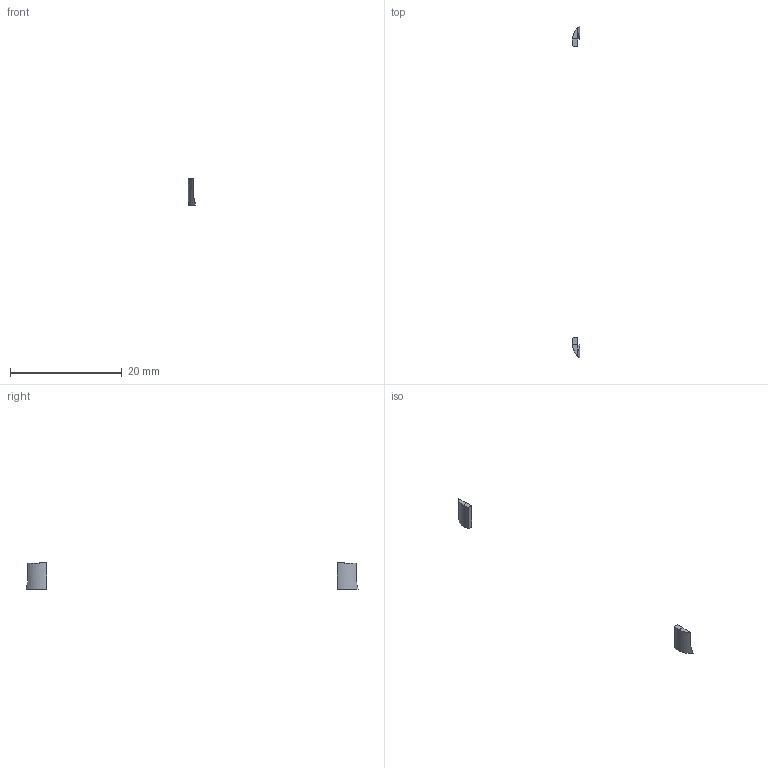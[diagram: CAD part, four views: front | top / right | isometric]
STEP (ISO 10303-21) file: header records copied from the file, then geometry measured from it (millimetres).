
FILE_DESCRIPTION(('Open CASCADE Model'),'2;1');
FILE_NAME('Open CASCADE Shape Model','2026-09-15T14:10:22',('Author'),( 'Open CASCADE'),'Open CASCADE STEP processor 7.7','Open CASCADE 7.7' ,'Unknown');
FILE_SCHEMA(('AUTOMOTIVE_DESIGN { 1 0 10303 214 1 1 1 1 }'));
Length unit declared in the file: millimetre
Products named in the file (1): COMPOUND
Bounding box: 1.31 x 59.36 x 4.7 mm (x, y, z)
Volume: 23.5 mm3; surface area: 85.8 mm2
Topology: 2 solids, 2 shells, 18 faces, 42 edges, 28 vertices
Faces by surface type: plane 12, cylinder 4, bspline 2
Entity records: 1459 total; most frequent: CARTESIAN_POINT 696, DIRECTION 106, ORIENTED_EDGE 84, PCURVE 84, DEFINITIONAL_REPRESENTATION 84, LINE 58, VECTOR 58, B_SPLINE_CURVE_WITH_KNOTS 56
